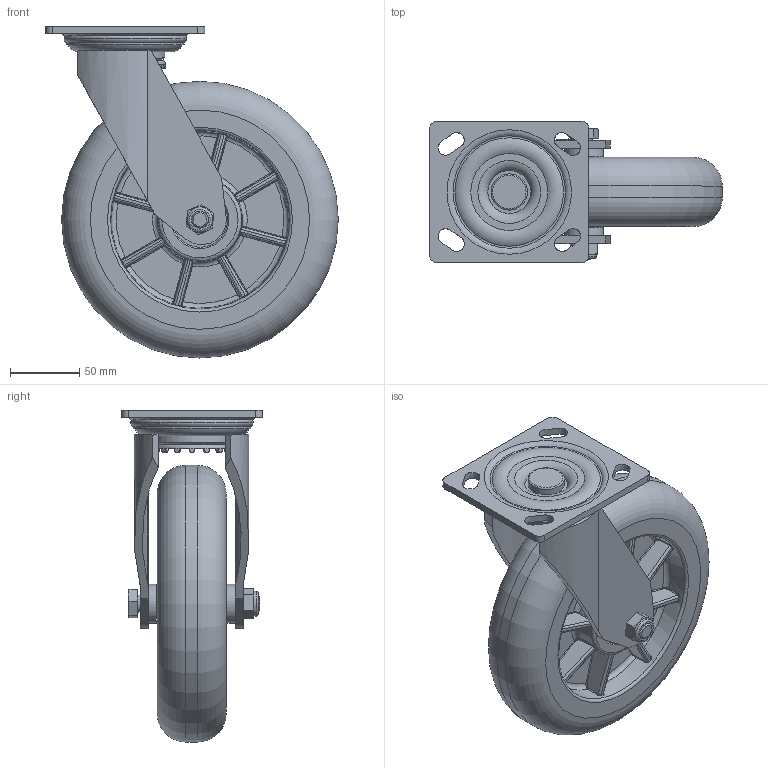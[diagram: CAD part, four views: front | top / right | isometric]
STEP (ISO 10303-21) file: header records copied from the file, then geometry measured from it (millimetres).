
FILE_DESCRIPTION(/* description */ (''),/* implementation_level */ '2;1');
FILE_NAME(/* name */ '35C13_8_R.stp',/* time_stamp */ '2022-10-17T13:03:32+08:00',/* author */ (''),/* organization */ (''),/* preprocessor_version */ 'ST-DEVELOPER v14',/* originating_system */ 'SIEMENS PLM Software NX 8.0',/* authorisation */ '');
FILE_SCHEMA (('AUTOMOTIVE_DESIGN { 1 0 10303 214 3 1 1 1 }'));
Length unit declared in the file: millimetre
Products named in the file (1): 35C13_8_R
Bounding box: 211.5 x 102 x 240 mm (x, y, z)
Volume: 17862.8 mm3; surface area: 214651 mm2
Topology: 1 solids, 2 shells, 998 faces, 2662 edges, 1676 vertices
Faces by surface type: plane 358, bspline 254, cylinder 198, torus 87, sphere 49, cone 46, extrusion 6
Full cylindrical faces by diameter (mm): 12.3 x4, 16.2 x1, 16.3 x1, 18 x1, 20.5 x2, 22.276 x1, 26.256 x1, 28 x2, 39.85 x2, 40 x1, 57 x1, 85 x1, 200 x1
Entity records: 37593 total; most frequent: CARTESIAN_POINT 16335, ORIENTED_EDGE 4834, DIRECTION 3713, EDGE_CURVE 2417, VERTEX_POINT 1550, AXIS2_PLACEMENT_3D 1534, EDGE_LOOP 1189, ADVANCED_FACE 998
